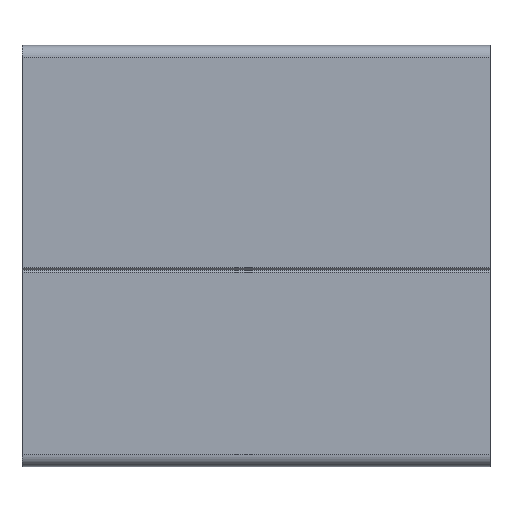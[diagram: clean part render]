
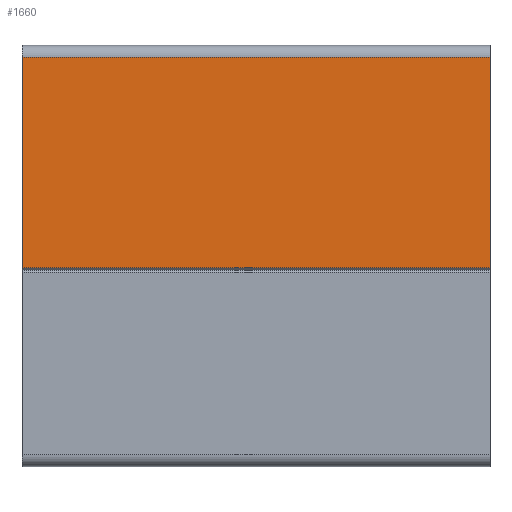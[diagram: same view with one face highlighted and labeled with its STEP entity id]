
A CAD part, front view. The second image highlights one B-rep face of the part: STEP entity #1660.
In plain terms, the highlighted planar face has unit normal (0, -1, 0).
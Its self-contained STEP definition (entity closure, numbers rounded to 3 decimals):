
#68 = CARTESIAN_POINT ( 'NONE',  ( -40.816, 24.898, -27.5 ) ) ;
#139 = VECTOR ( 'NONE', #2167, 1000. ) ;
#183 = VECTOR ( 'NONE', #2083, 1000. ) ;
#189 = FACE_OUTER_BOUND ( 'NONE', #2170, .T. ) ;
#351 = ORIENTED_EDGE ( 'NONE', *, *, #2732, .T. ) ;
#406 = DIRECTION ( 'NONE',  ( 0., 0., 1. ) ) ;
#530 = VERTEX_POINT ( 'NONE', #2487 ) ;
#553 = EDGE_CURVE ( 'NONE', #530, #867, #1412, .T. ) ;
#596 = CARTESIAN_POINT ( 'NONE',  ( 59.184, 24.898, -27.5 ) ) ;
#634 = LINE ( 'NONE', #1432, #139 ) ;
#803 = VERTEX_POINT ( 'NONE', #1206 ) ;
#867 = VERTEX_POINT ( 'NONE', #68 ) ;
#898 = VERTEX_POINT ( 'NONE', #2952 ) ;
#957 = AXIS2_PLACEMENT_3D ( 'NONE', #2965, #2996, #406 ) ;
#1096 = LINE ( 'NONE', #596, #1647 ) ;
#1139 = ORIENTED_EDGE ( 'NONE', *, *, #1635, .F. ) ;
#1206 = CARTESIAN_POINT ( 'NONE',  ( 59.184, 24.898, -27.5 ) ) ;
#1305 = DIRECTION ( 'NONE',  ( 0., 0., -1. ) ) ;
#1330 = ORIENTED_EDGE ( 'NONE', *, *, #2922, .F. ) ;
#1412 = LINE ( 'NONE', #2048, #183 ) ;
#1432 = CARTESIAN_POINT ( 'NONE',  ( 59.184, 24.898, 17.5 ) ) ;
#1483 = VECTOR ( 'NONE', #1305, 1000. ) ;
#1635 = EDGE_CURVE ( 'NONE', #803, #867, #1096, .T. ) ;
#1647 = VECTOR ( 'NONE', #2502, 1000. ) ;
#1660 = ADVANCED_FACE ( 'NONE', ( #189 ), #2474, .F. ) ;
#2048 = CARTESIAN_POINT ( 'NONE',  ( -40.816, 24.898, 17.5 ) ) ;
#2083 = DIRECTION ( 'NONE',  ( 0., 0., -1. ) ) ;
#2167 = DIRECTION ( 'NONE',  ( -1., 0., 0. ) ) ;
#2170 = EDGE_LOOP ( 'NONE', ( #2517, #1139, #1330, #351 ) ) ;
#2474 = PLANE ( 'NONE',  #957 ) ;
#2487 = CARTESIAN_POINT ( 'NONE',  ( -40.816, 24.898, 17.5 ) ) ;
#2502 = DIRECTION ( 'NONE',  ( -1., 0., 0. ) ) ;
#2517 = ORIENTED_EDGE ( 'NONE', *, *, #553, .T. ) ;
#2525 = CARTESIAN_POINT ( 'NONE',  ( 59.184, 24.898, 17.5 ) ) ;
#2732 = EDGE_CURVE ( 'NONE', #898, #530, #634, .T. ) ;
#2922 = EDGE_CURVE ( 'NONE', #898, #803, #3005, .T. ) ;
#2952 = CARTESIAN_POINT ( 'NONE',  ( 59.184, 24.898, 17.5 ) ) ;
#2965 = CARTESIAN_POINT ( 'NONE',  ( 59.184, 24.898, 17.5 ) ) ;
#2996 = DIRECTION ( 'NONE',  ( 0., 1., 0. ) ) ;
#3005 = LINE ( 'NONE', #2525, #1483 ) ;
